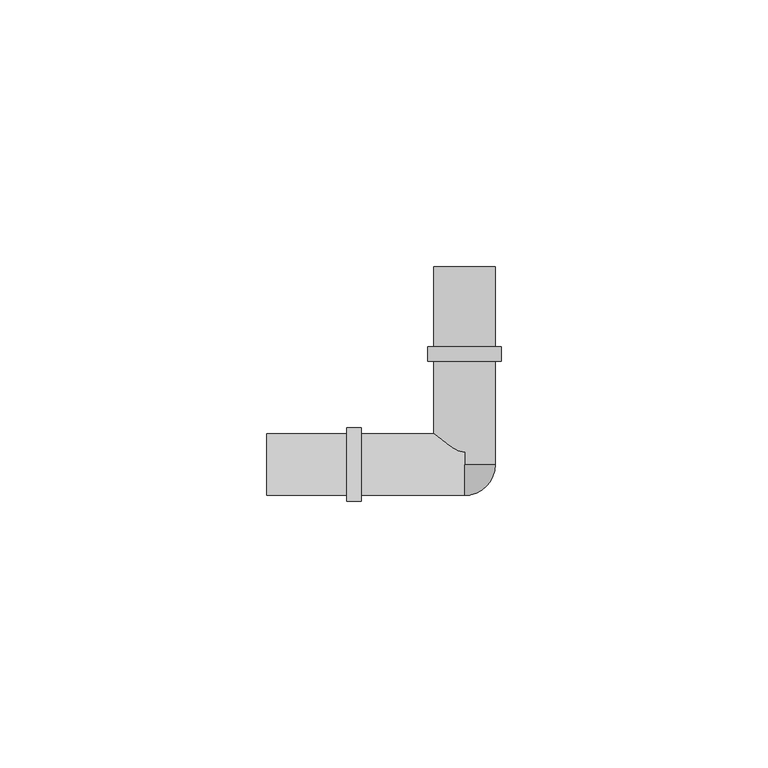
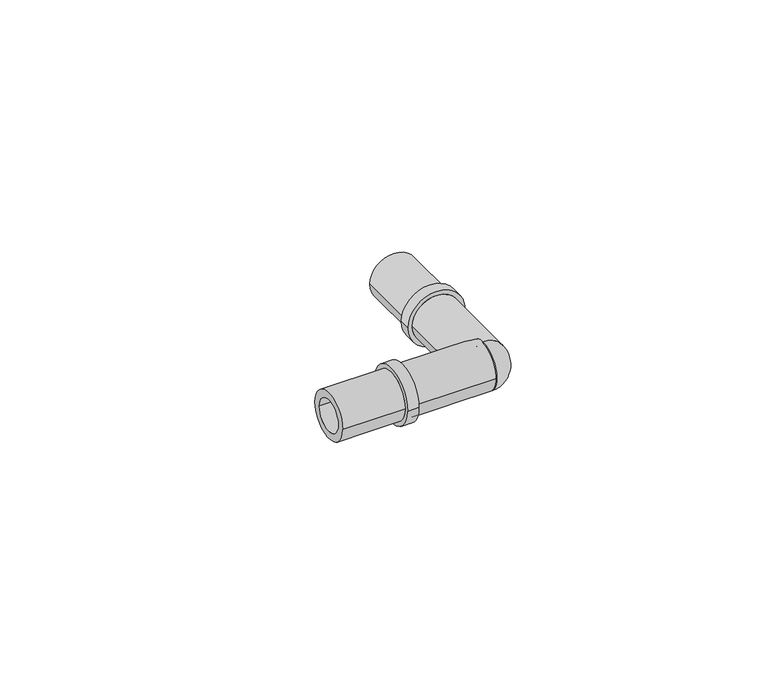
"""IFC4 building model written with IfcOpenShell, lengths in millimetres: pipe fitting geometry, FASTLOC_Corner LX : FSL C LX PL."""

from ifc_helpers import new_model, si_unit, point, frame, origin, place, context, project, spatial, polyline, circle_curve, ellipse_curve, trimmed, source, transform, mapped, element, save
from ifc_brep_helpers import plane_surface, cylinder_surface, revolved_surface, advanced_brep


def pipe_fitting_e16683b4(model_context):
    return source(origin(), model_context, "Body", "AdvancedBrep", [
        advanced_brep(
        [(0.0, 0.0, 5.8), (0.0, 0.0, 0.0), (0.0, -5.8, 0.0), (0.0, 0.0, -5.8)],
        [
            (0, 1),
            (1, 2),
            (2, 0, circle_curve(frame((0.0, 0.0, 0.0), z_axis=(-1.0, 0.0, 0.0), x_axis=(0.0, 0.0, 1.0)), 5.8)),
            (3, 2, circle_curve(frame((0.0, 0.0, 0.0), z_axis=(-1.0, 0.0, 0.0), x_axis=(0.0, 0.0, -1.0)), 5.8)),
            (1, 3),
            (0, 3, circle_curve(frame((0.0, 0.0, 0.0), z_axis=(0.0, 1.0, 0.0), x_axis=(0.0, 0.0, 1.0)), 5.8)),
        ],
        [
            plane_surface(frame((0.0, 0.0, 0.0), z_axis=(-1.0, 0.0, 0.0), x_axis=(0.0, 0.0, 1.0))),
            plane_surface(frame((0.0, 0.0, 0.0), z_axis=(-1.0, 0.0, 0.0), x_axis=(0.0, 0.0, -1.0))),
            plane_surface(frame((0.0, 0.0, 0.0), z_axis=(0.0, 1.0, 0.0), x_axis=(0.0, 0.0, 1.0))),
            revolved_surface(trimmed(ellipse_curve(frame((0.0, 0.0, 0.0), z_axis=(-1.0, 0.0, 0.0), x_axis=(0.0, 0.0, 1.0)), 5.8, 5.8), [point((0.0, -5.8, 0.0))], [point((0.0, 0.0, 5.8))], True, "CARTESIAN"), (0.0, 0.0, 0.0), (0.0, 1.0, 0.0)),
        ],
        [
            (0, [[1, 2, 3]]),
            (1, [[4, -2, 5]]),
            (2, [[-1, 6, -5]]),
            (3, [[-6, -3, -4]]),
        ],
    ),
        advanced_brep(
        [(-37.1, 3.95, 0.0), (-37.1, -3.95, 0.0), (0.0, -3.95, 0.0), (0.0, 3.95, 0.0), (-22.1, 5.8, 0.0), (-22.1, -5.8, 0.0), (-37.1, -5.8, 0.0), (-37.1, 5.8, 0.0), (-19.4, 6.9, 0.0), (-19.4, -6.9, 0.0), (-22.1, -6.9, 0.0), (-22.1, 6.9, 0.0), (0.0, 5.8, 0.0), (0.0, -5.8, 0.0), (-19.4, -5.8, 0.0), (-19.4, 5.8, 0.0)],
        [
            (0, 1, circle_curve(frame((-37.1, 0.0, 0.0), z_axis=(-1.0, 0.0, 0.0), x_axis=(0.0, -1.0, 0.0)), 3.95)),
            (1, 2),
            (2, 3, circle_curve(frame((0.0, 0.0, 0.0), z_axis=(1.0, 0.0, 0.0), x_axis=(0.0, -1.0, 0.0)), 3.95)),
            (3, 0),
            (4, 5, circle_curve(frame((-22.1, 0.0, 0.0), z_axis=(-1.0, 0.0, 0.0), x_axis=(0.0, -1.0, 0.0)), 5.8)),
            (5, 6),
            (6, 7, circle_curve(frame((-37.1, 0.0, 0.0), z_axis=(1.0, 0.0, 0.0), x_axis=(0.0, -1.0, 0.0)), 5.8)),
            (7, 4),
            (8, 9, circle_curve(frame((-19.4, 0.0, 0.0), z_axis=(-1.0, 0.0, 0.0), x_axis=(0.0, -1.0, 0.0)), 6.9)),
            (9, 10),
            (10, 11, circle_curve(frame((-22.1, 0.0, 0.0), z_axis=(1.0, 0.0, 0.0), x_axis=(0.0, -1.0, 0.0)), 6.9)),
            (11, 8),
            (12, 13, circle_curve(frame((0.0, 0.0, 0.0), z_axis=(-1.0, 0.0, 0.0), x_axis=(0.0, -1.0, 0.0)), 5.8)),
            (13, 14),
            (14, 15, circle_curve(frame((-19.4, 0.0, 0.0), z_axis=(1.0, 0.0, 0.0), x_axis=(0.0, -1.0, 0.0)), 5.8)),
            (15, 12),
            (1, 0, circle_curve(frame((-37.1, 0.0, 0.0), z_axis=(-1.0, 0.0, 0.0), x_axis=(0.0, 1.0, 0.0)), 3.95)),
            (3, 2, circle_curve(frame((0.0, 0.0, 0.0), z_axis=(1.0, 0.0, 0.0), x_axis=(0.0, 1.0, 0.0)), 3.95)),
            (6, 7, circle_curve(frame((-37.1, 0.0, 0.0), z_axis=(-1.0, 0.0, 0.0), x_axis=(0.0, 1.0, 0.0)), 5.8)),
            (5, 4, circle_curve(frame((-22.1, 0.0, 0.0), z_axis=(-1.0, 0.0, 0.0), x_axis=(0.0, 1.0, 0.0)), 5.8)),
            (10, 11, circle_curve(frame((-22.1, 0.0, 0.0), z_axis=(-1.0, 0.0, 0.0), x_axis=(0.0, 1.0, 0.0)), 6.9)),
            (9, 8, circle_curve(frame((-19.4, 0.0, 0.0), z_axis=(-1.0, 0.0, 0.0), x_axis=(0.0, 1.0, 0.0)), 6.9)),
            (14, 15, circle_curve(frame((-19.4, 0.0, 0.0), z_axis=(-1.0, 0.0, 0.0), x_axis=(0.0, 1.0, 0.0)), 5.8)),
            (13, 12, circle_curve(frame((0.0, 0.0, 0.0), z_axis=(-1.0, 0.0, 0.0), x_axis=(0.0, 1.0, 0.0)), 5.8)),
        ],
        [
            revolved_surface(polyline([(0.0, -3.95, 0.0), (-37.1, -3.95, 0.0)]), (0.0, 0.0, 0.0), (1.0, 0.0, 0.0)),
            cylinder_surface(frame((0.0, 0.0, 0.0), z_axis=(1.0, 0.0, 0.0), x_axis=(0.0, -1.0, 0.0)), 5.8),
            cylinder_surface(frame((0.0, 0.0, 0.0), z_axis=(1.0, 0.0, 0.0), x_axis=(0.0, -1.0, 0.0)), 6.9),
            revolved_surface(polyline([(0.0, 3.95, 0.0), (-37.1, 3.95, 0.0)]), (0.0, 0.0, 0.0), (1.0, 0.0, 0.0)),
            plane_surface(frame((-37.1, 0.0, 0.0), z_axis=(-1.0, 0.0, 0.0), x_axis=(0.0, 1.0, 0.0))),
            cylinder_surface(frame((0.0, 0.0, 0.0), z_axis=(1.0, 0.0, 0.0), x_axis=(0.0, 1.0, 0.0)), 5.8),
            plane_surface(frame((-22.1, 0.0, 0.0), z_axis=(-1.0, 0.0, 0.0), x_axis=(0.0, 1.0, 0.0))),
            cylinder_surface(frame((0.0, 0.0, 0.0), z_axis=(1.0, 0.0, 0.0), x_axis=(0.0, 1.0, 0.0)), 6.9),
            plane_surface(frame((-19.4, 0.0, 0.0), z_axis=(1.0, 0.0, 0.0), x_axis=(0.0, 1.0, 0.0))),
            plane_surface(frame((0.0, 0.0, 0.0), z_axis=(1.0, 0.0, 0.0), x_axis=(0.0, 1.0, 0.0))),
        ],
        [
            (0, [[1, 2, 3, 4]]),
            (1, [[5, 6, 7, 8]]),
            (2, [[9, 10, 11, 12]]),
            (1, [[13, 14, 15, 16]]),
            (3, [[17, -4, 18, -2]]),
            (4, [[19, -7], [-17, -1]]),
            (5, [[20, -8, -19, -6]]),
            (6, [[21, -11], [-20, -5]]),
            (7, [[22, -12, -21, -10]]),
            (8, [[-22, -9], [23, -15]]),
            (5, [[24, -16, -23, -14]]),
            (9, [[-24, -13], [-18, -3]]),
        ],
    ),
        advanced_brep(
        [(3.95, 37.1, 0.0), (-3.95, 37.1, 0.0), (-3.95, 0.0, 0.0), (3.95, 0.0, 0.0), (5.8, 22.1, 0.0), (-5.8, 22.1, 0.0), (-5.8, 37.1, 0.0), (5.8, 37.1, 0.0), (6.9, 19.4, 0.0), (-6.9, 19.4, 0.0), (-6.9, 22.1, 0.0), (6.9, 22.1, 0.0), (5.8, 0.0, 0.0), (-5.8, 0.0, 0.0), (-5.8, 19.4, 0.0), (5.8, 19.4, 0.0)],
        [
            (0, 1, circle_curve(frame((0.0, 37.1, 0.0), z_axis=(0.0, 1.0, 0.0), x_axis=(-1.0, 0.0, 0.0)), 3.95)),
            (1, 2),
            (2, 3, circle_curve(frame((0.0, 0.0, 0.0), z_axis=(0.0, -1.0, 0.0), x_axis=(-1.0, 0.0, 0.0)), 3.95)),
            (3, 0),
            (4, 5, circle_curve(frame((0.0, 22.1, 0.0), z_axis=(0.0, 1.0, 0.0), x_axis=(-1.0, 0.0, 0.0)), 5.8)),
            (5, 6),
            (6, 7, circle_curve(frame((0.0, 37.1, 0.0), z_axis=(0.0, -1.0, 0.0), x_axis=(-1.0, 0.0, 0.0)), 5.8)),
            (7, 4),
            (8, 9, circle_curve(frame((0.0, 19.4, 0.0), z_axis=(0.0, 1.0, 0.0), x_axis=(-1.0, 0.0, 0.0)), 6.9)),
            (9, 10),
            (10, 11, circle_curve(frame((0.0, 22.1, 0.0), z_axis=(0.0, -1.0, 0.0), x_axis=(-1.0, 0.0, 0.0)), 6.9)),
            (11, 8),
            (12, 13, circle_curve(frame((0.0, 0.0, 0.0), z_axis=(0.0, 1.0, 0.0), x_axis=(-1.0, 0.0, 0.0)), 5.8)),
            (13, 14),
            (14, 15, circle_curve(frame((0.0, 19.4, 0.0), z_axis=(0.0, -1.0, 0.0), x_axis=(-1.0, 0.0, 0.0)), 5.8)),
            (15, 12),
            (1, 0, circle_curve(frame((0.0, 37.1, 0.0), z_axis=(0.0, 1.0, 0.0), x_axis=(1.0, 0.0, 0.0)), 3.95)),
            (3, 2, circle_curve(frame((0.0, 0.0, 0.0), z_axis=(0.0, -1.0, 0.0), x_axis=(1.0, 0.0, 0.0)), 3.95)),
            (6, 7, circle_curve(frame((0.0, 37.1, 0.0), z_axis=(0.0, 1.0, 0.0), x_axis=(1.0, 0.0, 0.0)), 5.8)),
            (5, 4, circle_curve(frame((0.0, 22.1, 0.0), z_axis=(0.0, 1.0, 0.0), x_axis=(1.0, 0.0, 0.0)), 5.8)),
            (10, 11, circle_curve(frame((0.0, 22.1, 0.0), z_axis=(0.0, 1.0, 0.0), x_axis=(1.0, 0.0, 0.0)), 6.9)),
            (9, 8, circle_curve(frame((0.0, 19.4, 0.0), z_axis=(0.0, 1.0, 0.0), x_axis=(1.0, 0.0, 0.0)), 6.9)),
            (14, 15, circle_curve(frame((0.0, 19.4, 0.0), z_axis=(0.0, 1.0, 0.0), x_axis=(1.0, 0.0, 0.0)), 5.8)),
            (13, 12, circle_curve(frame((0.0, 0.0, 0.0), z_axis=(0.0, 1.0, 0.0), x_axis=(1.0, 0.0, 0.0)), 5.8)),
        ],
        [
            revolved_surface(polyline([(-3.95, 0.0, 0.0), (-3.95, 37.1, 0.0)]), (0.0, 0.0, 0.0), (0.0, -1.0, 0.0)),
            cylinder_surface(frame((0.0, 0.0, 0.0), z_axis=(0.0, -1.0, 0.0), x_axis=(-1.0, 0.0, 0.0)), 5.8),
            cylinder_surface(frame((0.0, 0.0, 0.0), z_axis=(0.0, -1.0, 0.0), x_axis=(-1.0, 0.0, 0.0)), 6.9),
            revolved_surface(polyline([(3.95, 0.0, 0.0), (3.95, 37.1, 0.0)]), (0.0, 0.0, 0.0), (0.0, -1.0, 0.0)),
            plane_surface(frame((0.0, 37.1, 0.0), z_axis=(0.0, 1.0, 0.0), x_axis=(1.0, 0.0, 0.0))),
            cylinder_surface(frame((0.0, 0.0, 0.0), z_axis=(0.0, -1.0, 0.0), x_axis=(1.0, 0.0, 0.0)), 5.8),
            plane_surface(frame((0.0, 22.1, 0.0), z_axis=(0.0, 1.0, 0.0), x_axis=(1.0, 0.0, 0.0))),
            cylinder_surface(frame((0.0, 0.0, 0.0), z_axis=(0.0, -1.0, 0.0), x_axis=(1.0, 0.0, 0.0)), 6.9),
            plane_surface(frame((0.0, 19.4, 0.0), z_axis=(0.0, -1.0, 0.0), x_axis=(1.0, 0.0, 0.0))),
            plane_surface(frame((0.0, 0.0, 0.0), z_axis=(0.0, -1.0, 0.0), x_axis=(1.0, 0.0, 0.0))),
        ],
        [
            (0, [[1, 2, 3, 4]]),
            (1, [[5, 6, 7, 8]]),
            (2, [[9, 10, 11, 12]]),
            (1, [[13, 14, 15, 16]]),
            (3, [[17, -4, 18, -2]]),
            (4, [[19, -7], [-17, -1]]),
            (5, [[20, -8, -19, -6]]),
            (6, [[21, -11], [-20, -5]]),
            (7, [[22, -12, -21, -10]]),
            (8, [[-22, -9], [23, -15]]),
            (5, [[24, -16, -23, -14]]),
            (9, [[-24, -13], [-18, -3]]),
        ],
    ),
    ])


if __name__ == "__main__":
    model = new_model("IFC4")
    model_context = context("Model", 3, world=origin())
    ifc_project = project(units=[si_unit("LENGTHUNIT", "METRE", prefix="MILLI")], contexts=[model_context])
    site = spatial("IfcSite", under=ifc_project)
    building = spatial("IfcBuilding", under=site)
    placement = place(None, origin())
    pipe_fitting_shape = pipe_fitting_e16683b4(model_context)
    element("IfcPipeFitting", 1, ObjectType="FASTLOC_Corner LX : FSL C LX PL", at=placement, inside=building, context=model_context, shape_type="MappedRepresentation", body=[
        mapped(pipe_fitting_shape, transform((0.0, 0.0, 0.0), x_axis=(1.0, 0.0, 0.0), y_axis=(0.0, 1.0, 0.0), z_axis=(0.0, 0.0, 1.0))),
    ])
    save(model, "model.ifc")
